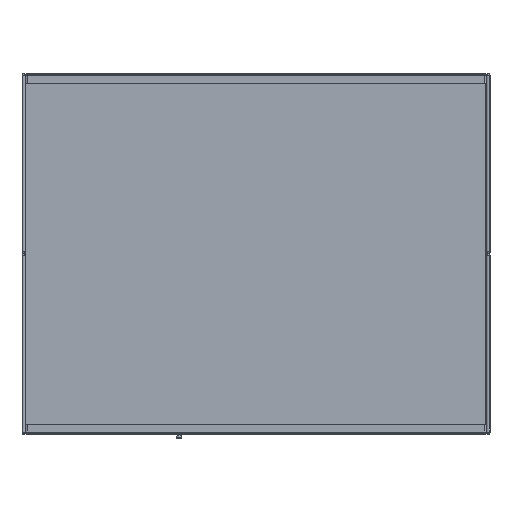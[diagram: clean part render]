
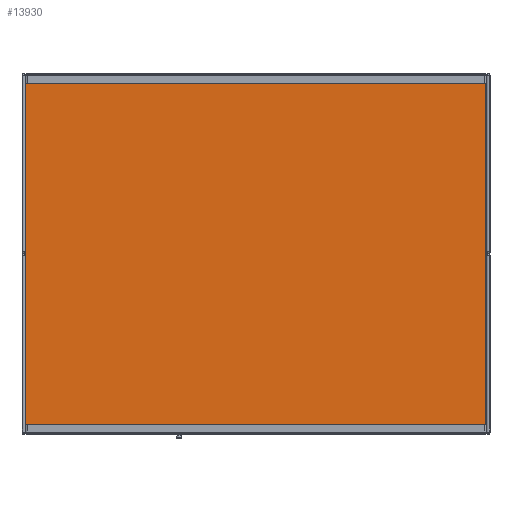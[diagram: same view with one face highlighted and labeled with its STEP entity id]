
A CAD part, top view. The second image highlights one B-rep face of the part: STEP entity #13930.
In plain terms, the highlighted planar face has unit normal (0, 0, 1).
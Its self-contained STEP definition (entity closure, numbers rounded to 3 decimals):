
#1850=FACE_OUTER_BOUND('',#2692,.T.);
#2692=EDGE_LOOP('',(#9488,#9489,#9490,#9491));
#3628=LINE('',#21346,#4916);
#3632=LINE('',#21354,#4920);
#3635=LINE('',#21360,#4923);
#3638=LINE('',#21365,#4926);
#4916=VECTOR('',#16915,10.);
#4920=VECTOR('',#16921,10.);
#4923=VECTOR('',#16926,10.);
#4926=VECTOR('',#16931,10.);
#6200=VERTEX_POINT('',#21344);
#6201=VERTEX_POINT('',#21345);
#6204=VERTEX_POINT('',#21353);
#6206=VERTEX_POINT('',#21359);
#7476=EDGE_CURVE('',#6200,#6201,#3628,.T.);
#7480=EDGE_CURVE('',#6204,#6200,#3632,.T.);
#7483=EDGE_CURVE('',#6206,#6204,#3635,.T.);
#7486=EDGE_CURVE('',#6201,#6206,#3638,.T.);
#9488=ORIENTED_EDGE('',*,*,#7480,.F.);
#9489=ORIENTED_EDGE('',*,*,#7483,.F.);
#9490=ORIENTED_EDGE('',*,*,#7486,.F.);
#9491=ORIENTED_EDGE('',*,*,#7476,.F.);
#13426=PLANE('',#15317);
#13930=ADVANCED_FACE('',(#1850),#13426,.T.);
#15317=AXIS2_PLACEMENT_3D('',#21367,#16933,#16934);
#16915=DIRECTION('',(0.,1.,0.));
#16921=DIRECTION('',(-1.,0.,0.));
#16926=DIRECTION('',(0.,-1.,0.));
#16931=DIRECTION('',(1.,0.,0.));
#16933=DIRECTION('center_axis',(0.,0.,1.));
#16934=DIRECTION('ref_axis',(-1.,0.,0.));
#21344=CARTESIAN_POINT('',(-30.,45.,2263.));
#21345=CARTESIAN_POINT('',(-30.,1995.,2263.));
#21346=CARTESIAN_POINT('',(-30.,45.,2263.));
#21353=CARTESIAN_POINT('',(2600.,45.,2263.));
#21354=CARTESIAN_POINT('',(2600.,45.,2263.));
#21359=CARTESIAN_POINT('',(2600.,1995.,2263.));
#21360=CARTESIAN_POINT('',(2600.,1995.,2263.));
#21365=CARTESIAN_POINT('',(0.,1995.,2263.));
#21367=CARTESIAN_POINT('Origin',(1300.,1020.,2263.));
